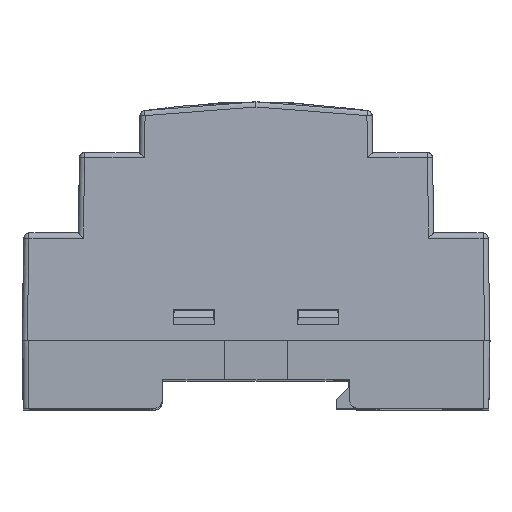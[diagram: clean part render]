
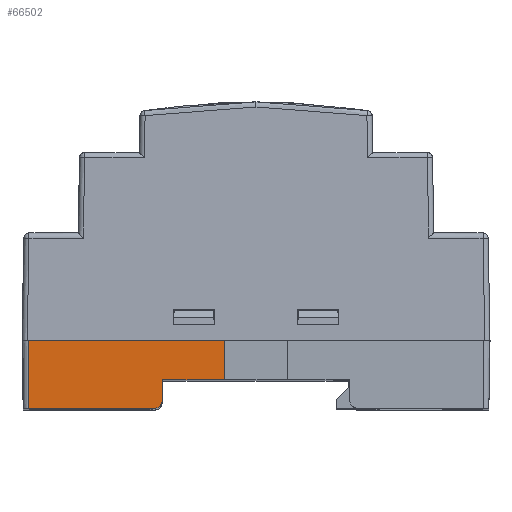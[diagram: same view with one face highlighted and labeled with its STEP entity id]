
A CAD part, top view. The second image highlights one B-rep face of the part: STEP entity #66502.
In plain terms, the highlighted planar face has unit normal (0, -0.018, 1).
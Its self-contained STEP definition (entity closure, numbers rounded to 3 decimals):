
#1459 = VERTEX_POINT ( 'NONE', #19902 ) ;
#1585 = CARTESIAN_POINT ( 'NONE',  ( -17.798, 1.096, 106.069 ) ) ;
#1631 = CARTESIAN_POINT ( 'NONE',  ( -5.98, 0.445, 106.058 ) ) ;
#3325 = CARTESIAN_POINT ( 'NONE',  ( -6.05, -7.6, 105.917 ) ) ;
#3899 = ORIENTED_EDGE ( 'NONE', *, *, #55804, .T. ) ;
#7321 = PLANE ( 'NONE',  #71870 ) ;
#12461 = CARTESIAN_POINT ( 'NONE',  ( -18.653, -13.1, 105.821 ) ) ;
#13755 = EDGE_CURVE ( 'NONE', #1459, #63958, #71156, .T. ) ;
#15325 = VECTOR ( 'NONE', #41081, 1000. ) ;
#17605 = DIRECTION ( 'NONE',  ( 1., 0., 0. ) ) ;
#19902 = CARTESIAN_POINT ( 'NONE',  ( -17.95, -7.6, 105.917 ) ) ;
#21505 = CARTESIAN_POINT ( 'NONE',  ( 45., 0., 106.05 ) ) ;
#23130 = ORIENTED_EDGE ( 'NONE', *, *, #78258, .F. ) ;
#24498 = LINE ( 'NONE', #77124, #65346 ) ;
#29129 = CARTESIAN_POINT ( 'NONE',  ( -19.52, -13.1, 105.821 ) ) ;
#35181 = LINE ( 'NONE', #1585, #62423 ) ;
#37042 = VERTEX_POINT ( 'NONE', #79999 ) ;
#38611 = VECTOR ( 'NONE', #73651, 1000. ) ;
#38750 = CARTESIAN_POINT ( 'NONE',  ( -18.035, -12.493, 105.832 ) ) ;
#40406 = LINE ( 'NONE', #1631, #38611 ) ;
#40526 = EDGE_CURVE ( 'NONE', #46528, #63958, #40406, .T. ) ;
#41081 = DIRECTION ( 'NONE',  ( 1., 0., 0. ) ) ;
#41263 = CARTESIAN_POINT ( 'NONE',  ( -5.984, 0., 106.05 ) ) ;
#42177 = EDGE_CURVE ( 'NONE', #76014, #46528, #47556, .T. ) ;
#42597 = LINE ( 'NONE', #55140, #52695 ) ;
#44814 = CARTESIAN_POINT ( 'NONE',  ( 45., -7.6, 105.917 ) ) ;
#46043 = ORIENTED_EDGE ( 'NONE', *, *, #65785, .T. ) ;
#46528 = VERTEX_POINT ( 'NONE', #41263 ) ;
#47556 = LINE ( 'NONE', #55301, #15325 ) ;
#48717 = ORIENTED_EDGE ( 'NONE', *, *, #42177, .F. ) ;
#50020 = VECTOR ( 'NONE', #72449, 1000. ) ;
#51037 = CARTESIAN_POINT ( 'NONE',  ( -43.75, 0., 106.05 ) ) ;
#52695 = VECTOR ( 'NONE', #17605, 1000. ) ;
#54563 = DIRECTION ( 'NONE',  ( -0.017, -1., -0.017 ) ) ;
#55140 = CARTESIAN_POINT ( 'NONE',  ( -45., -13.1, 105.821 ) ) ;
#55301 = CARTESIAN_POINT ( 'NONE',  ( 45., 0., 106.05 ) ) ;
#55804 = EDGE_CURVE ( 'NONE', #37042, #68152, #42597, .T. ) ;
#60063 = EDGE_CURVE ( 'NONE', #76014, #37042, #24498, .T. ) ;
#60299 = DIRECTION ( 'NONE',  ( 0., -1., -0.017 ) ) ;
#60730 =( BOUNDED_CURVE ( )  B_SPLINE_CURVE ( 3, ( #71544, #12461, #38750, #82813 ),
 .UNSPECIFIED., .F., .F. ) 
 B_SPLINE_CURVE_WITH_KNOTS ( ( 4, 4 ),
 ( 0., 1.553 ),
 .UNSPECIFIED. ) 
 CURVE ( )  GEOMETRIC_REPRESENTATION_ITEM ( )  RATIONAL_B_SPLINE_CURVE ( ( 1., 0.809, 0.809, 1. ) ) 
 REPRESENTATION_ITEM ( '' )  );
#61223 = EDGE_LOOP ( 'NONE', ( #3899, #46043, #23130, #82713, #73450, #48717, #76872 ) ) ;
#62423 = VECTOR ( 'NONE', #54563, 1000. ) ;
#63155 = VERTEX_POINT ( 'NONE', #74252 ) ;
#63958 = VERTEX_POINT ( 'NONE', #3325 ) ;
#65346 = VECTOR ( 'NONE', #65501, 1000. ) ;
#65501 = DIRECTION ( 'NONE',  ( 0., -1., -0.017 ) ) ;
#65785 = EDGE_CURVE ( 'NONE', #68152, #63155, #60730, .T. ) ;
#65916 = DIRECTION ( 'NONE',  ( 0., -0.017, 1. ) ) ;
#66502 = ADVANCED_FACE ( 'NONE', ( #79318 ), #7321, .T. ) ;
#68152 = VERTEX_POINT ( 'NONE', #29129 ) ;
#71156 = LINE ( 'NONE', #44814, #50020 ) ;
#71544 = CARTESIAN_POINT ( 'NONE',  ( -19.52, -13.1, 105.821 ) ) ;
#71870 = AXIS2_PLACEMENT_3D ( 'NONE', #21505, #65916, #60299 ) ;
#72449 = DIRECTION ( 'NONE',  ( 1., 0., 0. ) ) ;
#73450 = ORIENTED_EDGE ( 'NONE', *, *, #40526, .F. ) ;
#73651 = DIRECTION ( 'NONE',  ( -0.009, -1., -0.017 ) ) ;
#74252 = CARTESIAN_POINT ( 'NONE',  ( -18.02, -11.626, 105.847 ) ) ;
#76014 = VERTEX_POINT ( 'NONE', #51037 ) ;
#76872 = ORIENTED_EDGE ( 'NONE', *, *, #60063, .T. ) ;
#77124 = CARTESIAN_POINT ( 'NONE',  ( -43.75, 0., 106.05 ) ) ;
#78258 = EDGE_CURVE ( 'NONE', #1459, #63155, #35181, .T. ) ;
#79318 = FACE_OUTER_BOUND ( 'NONE', #61223, .T. ) ;
#79999 = CARTESIAN_POINT ( 'NONE',  ( -43.75, -13.1, 105.821 ) ) ;
#82713 = ORIENTED_EDGE ( 'NONE', *, *, #13755, .T. ) ;
#82813 = CARTESIAN_POINT ( 'NONE',  ( -18.02, -11.626, 105.847 ) ) ;
